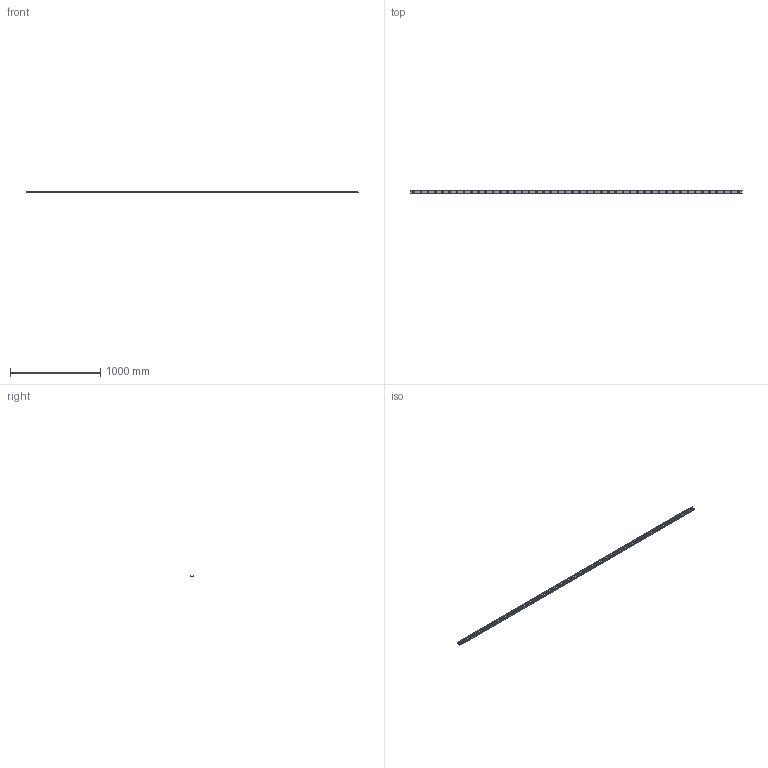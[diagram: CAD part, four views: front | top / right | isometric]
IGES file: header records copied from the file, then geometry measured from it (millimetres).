
Start section: SolidWorks IGES file using analytic representation for surfaces
Global section: file name: C:\Users\IanO\Desktop\43\L1943.ULC43_v2_20180121_IGES\L1943.ULC43-3680.igs; native system: SolidWorks 2017; preprocessor: SolidWorks 2017; author: IanO; date: 190121.085355; units: millimetre
Bounding box: 3680 x 43 x 21 mm (x, y, z)
Surface area: 576948.4 mm2 (no closed solid volume)
Topology: 0 solids, 0 shells, 256 faces, 6918 edges, 6918 vertices
Faces by surface type: revolution 197, bspline 59
